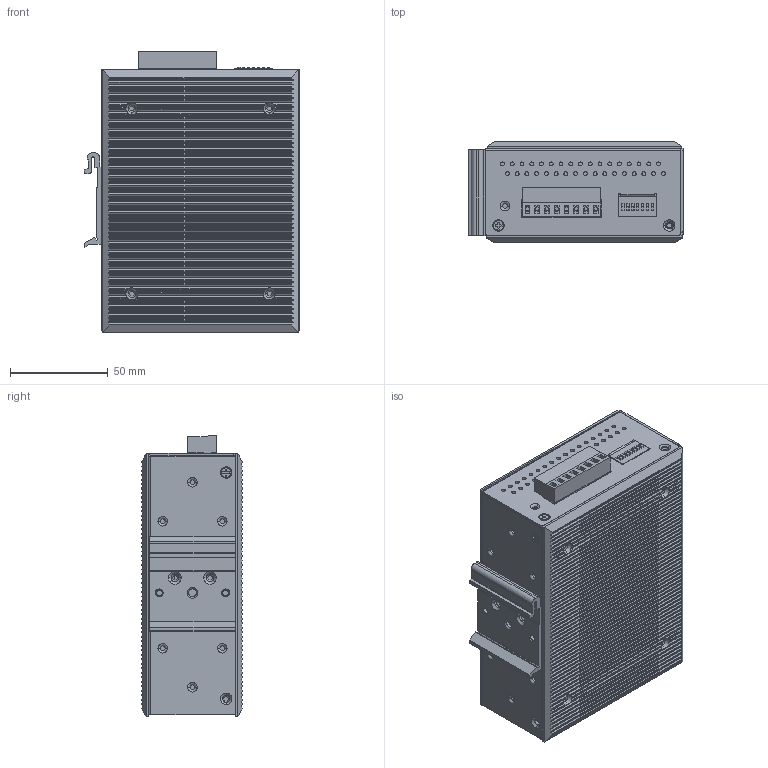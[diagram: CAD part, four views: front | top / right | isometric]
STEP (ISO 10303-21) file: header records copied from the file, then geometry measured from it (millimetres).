
FILE_DESCRIPTION((''),'2;1');
FILE_NAME('3D_IMC-P101-SC','2018-05-23T',('Vincent_Huang'),('PTC'),'PRO/ENGINEER BY PARAMETRIC TECHNOLOGY CORPORATION, 2013230','PRO/ENGINEER BY PARAMETRIC TECHNOLOGY CORPORATION, 2013230','');
FILE_SCHEMA(('AUTOMOTIVE_DESIGN { 1 0 10303 214 1 1 1 1 }'));
Products named in the file (1): 3D_IMC-P101-SC
Bounding box: 110.4 x 51.78 x 144.45 mm (x, y, z)
Volume: 187620.7 mm3; surface area: 144581.6 mm2
Topology: 1 solids, 9 shells, 2258 faces, 6049 edges, 3962 vertices
Faces by surface type: plane 1159, cylinder 967, torus 64, cone 44, bspline 24
Entity records: 80687 total; most frequent: CARTESIAN_POINT 16286, ORIENTED_EDGE 12098, DIRECTION 11334, EDGE_CURVE 6049, VERTEX_POINT 3963, AXIS2_PLACEMENT_3D 3807, VECTOR 3720, LINE 3720
